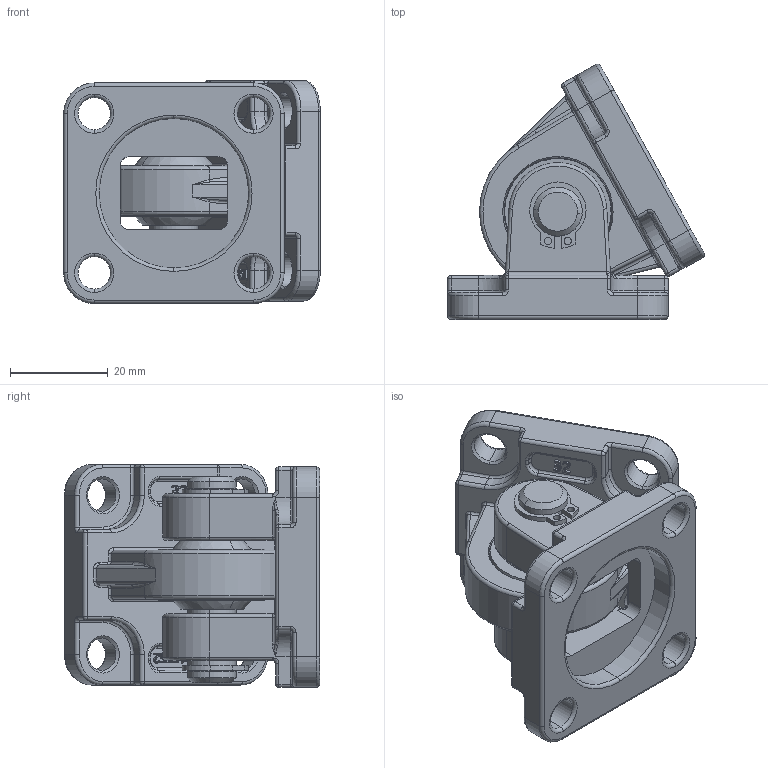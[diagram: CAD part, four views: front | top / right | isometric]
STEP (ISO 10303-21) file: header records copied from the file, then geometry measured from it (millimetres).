
FILE_DESCRIPTION (( 'STEP AP203' ), '1' );
FILE_NAME ('蚾饜极-ISO-CN 32.STEP', '2022-06-23T10:28:33', ( 'Windows' ), ( 'Microsoft' ), 'SwSTEP 2.0', 'SolidWorks 2018', '' );
FILE_SCHEMA (( 'CONFIG_CONTROL_DESIGN' ));
Length unit declared in the file: millimetre
Products named in the file (8): ISO-CN 32-MP; 蚾饜极-ISO-CN 32; ISO-CS32ㄗ磁踢ㄘ; SGS-22X10-ͭȦ; ISO-CS 32ㄗ磁踢ㄘ; SGS-19X14X10-紩赽; ISO-CN 32-种赽; C-10
Assembly tree (8 placements, depth 3):
  蚾饜极-ISO-CN 32
    ISO-CS 32ㄗ磁踢ㄘ
      ISO-CS32ㄗ磁踢ㄘ
      SGS-22X10-ͭȦ
      SGS-19X14X10-紩赽
    ISO-CN 32-种赽
    C-10  x2
    ISO-CN 32-MP
Bounding box: 52.39 x 52.08 x 45.5 mm (x, y, z)
Volume: 40956.1 mm3; surface area: 20736.8 mm2
Topology: 7 solids, 7 shells, 745 faces, 1827 edges, 1095 vertices
Faces by surface type: cylinder 243, plane 171, bspline 167, torus 110, cone 34, sphere 20
Entity records: 29630 total; most frequent: CARTESIAN_POINT 12658, ORIENTED_EDGE 3488, DIRECTION 3194, EDGE_CURVE 1744, AXIS2_PLACEMENT_3D 1220, VERTEX_POINT 1056, EDGE_LOOP 782, LINE 754
